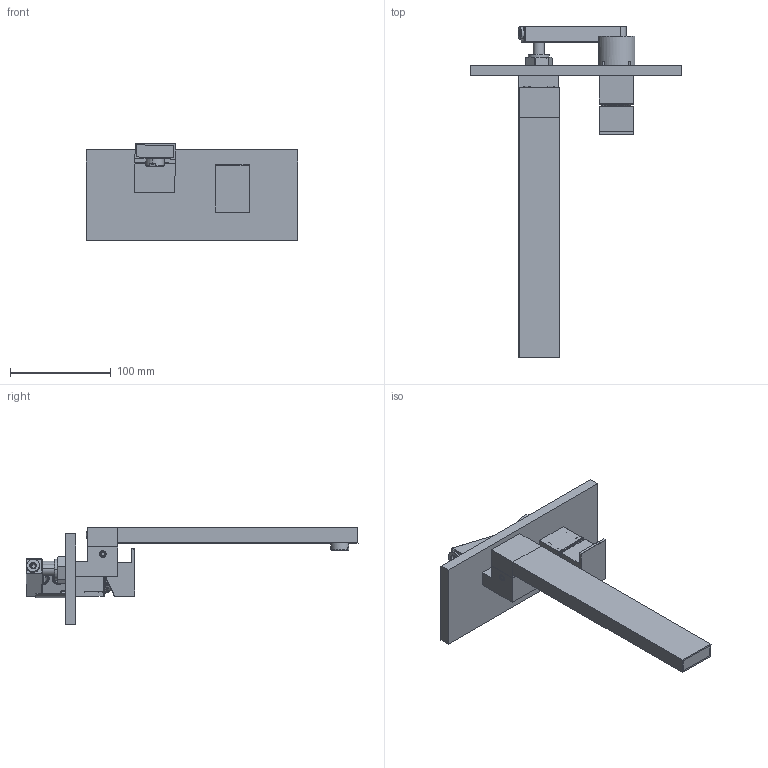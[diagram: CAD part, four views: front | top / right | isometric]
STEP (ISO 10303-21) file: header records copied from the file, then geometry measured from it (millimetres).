
FILE_DESCRIPTION (( 'STEP AP203' ), '1' );
FILE_NAME ('KT11.STEP', '2025-02-07T10:46:32', ( '' ), ( '' ), 'SwSTEP 2.0', 'SolidWorks 2024', '' );
FILE_SCHEMA (( 'CONFIG_CONTROL_DESIGN' ));
Length unit declared in the file: millimetre
Products named in the file (39): C24.0402.00.1; C11.12.0003; C24.0109.00.0; C24.0611.00.0; C21.0034.00.1; C25.0416.00.0; AS858_00; C24.0413.00.0; C13.00.0067.01; C21.0415.00.1; C24.0120.00.1; C11.14.0004; C12.00.0049; C11.10.0026; C11.10.0027; C24.0414.00.0; C24.0103.00.0; C24.0663.00.0; C24.1849.00.0; C12.00.0048; C24.0119.00.2; C24.1850.00.0; C11.14.0010; C11.14.0003; C24.1800.00.0; C24.1846.00.0; C47.00.0089.01; C10.00.0020; AS722_00; C25.0759.00.0; C12.00.0001; KT11; C24.0495.00.0; C11.14.0019; C11.10.0014; C24.0412.00.0; C24.0601.00.1; C47.00.0023.01; C24.1847.00.0
Assembly tree (53 placements, depth 4):
  KT11
    C24.0402.00.1
    C24.0601.00.1
    C24.0120.00.1
    C24.0119.00.2
    C24.0109.00.0
    C24.0103.00.0
    C11.10.0026  x2
    C11.10.0014  x4
    C11.14.0010  x2
    C12.00.0048  x3
    C11.14.0019
    C47.00.0023.01  x2
    C13.00.0067.01
    C24.0412.00.0
    C24.0413.00.0
    C24.0414.00.0
    C21.0415.00.1
    C25.0416.00.0
    C11.10.0027  x2
    C47.00.0089.01  x2
    C24.0611.00.0
    C12.00.0049
    C12.00.0001
    C11.14.0003
    C21.0034.00.1
    C24.1800.00.0
    C25.0759.00.0
    C10.00.0020
    C24.0495.00.0
    AS722_00
      C24.1846.00.0
      AS858_00
        C24.1850.00.0
        C24.1847.00.0
        C12.00.0048
      C24.1849.00.0
      C12.00.0048  x2
      C24.0663.00.0
      C12.00.0049  x2
      C11.12.0003
    C11.14.0004
Bounding box: 210 x 329.21 x 96.52 mm (x, y, z)
Volume: 328993.8 mm3; surface area: 212445.6 mm2
Topology: 54 solids, 54 shells, 1828 faces, 4305 edges, 2650 vertices
Faces by surface type: plane 650, cylinder 601, cone 329, torus 184, bspline 40, sphere 24
Entity records: 52190 total; most frequent: CARTESIAN_POINT 10837, DIRECTION 8055, ORIENTED_EDGE 7386, EDGE_CURVE 3693, AXIS2_PLACEMENT_3D 3174, VERTEX_POINT 2309, EDGE_LOOP 1798, LINE 1707
